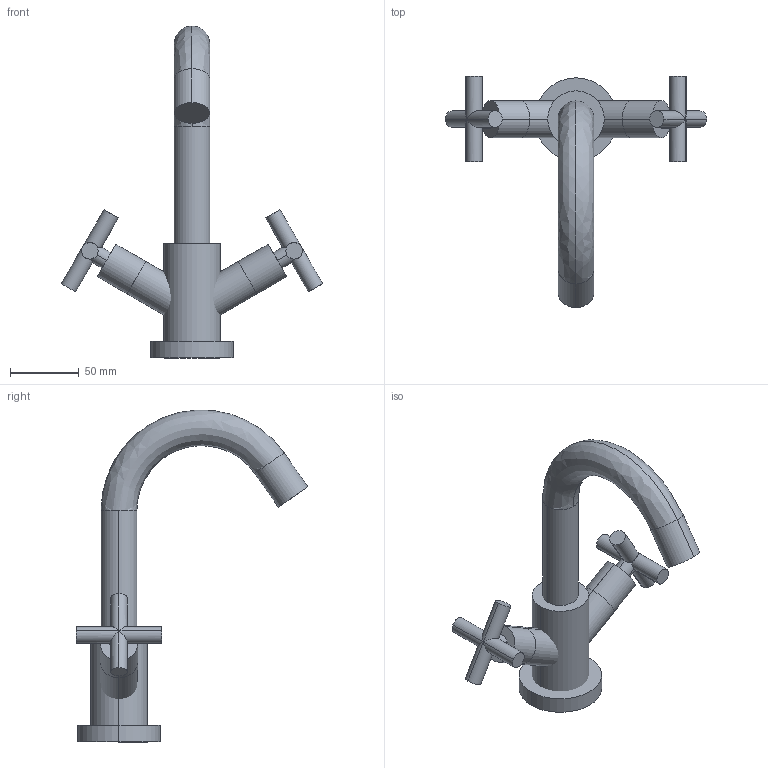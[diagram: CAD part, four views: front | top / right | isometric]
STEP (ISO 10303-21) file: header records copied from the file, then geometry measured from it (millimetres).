
FILE_DESCRIPTION(('FreeCAD Model'),'2;1');
FILE_NAME('Open CASCADE Shape Model','2024-08-08T17:45:22',('Author'),( ''),'Open CASCADE STEP processor 7.6','FreeCAD','Unknown');
FILE_SCHEMA(('AUTOMOTIVE_DESIGN { 1 0 10303 214 1 1 1 1 }'));
Length unit declared in the file: millimetre
Products named in the file (15): TopLevelAssembly; Wyciąganie001; Wyciąganie002; Wyciąganie003; Wyciąganie004; Połączona geometria bryłowa; Połączona geometria bryłowa003; Połączona geometria bryłowa001; Połączona geometria bryłowa002; Połączona geometria bryłowa004; Wyciąganie007; Wyciąganie008; Połączona geometria bryłowa005; Wyciąganie009; Wyciąganie010
Assembly tree (14 placements, depth 3):
  TopLevelAssembly
    Wyciąganie001
    Wyciąganie002
    Wyciąganie003
    Wyciąganie004
    Połączona geometria bryłowa
    Połączona geometria bryłowa003
      Połączona geometria bryłowa001
      Połączona geometria bryłowa002
    Połączona geometria bryłowa004
    Wyciąganie007
    Wyciąganie008
    Połączona geometria bryłowa005
    Wyciąganie009
    Wyciąganie010
Bounding box: 189.64 x 168.01 x 240.9 mm (x, y, z)
Volume: 455987.7 mm3; surface area: 83034.9 mm2
Topology: 13 solids, 13 shells, 78 faces, 140 edges, 88 vertices
Faces by surface type: cylinder 44, plane 32, bspline 2
Entity records: 2438 total; most frequent: CARTESIAN_POINT 513, DIRECTION 386, ORIENTED_EDGE 280, AXIS2_PLACEMENT_3D 171, EDGE_CURVE 140, VERTEX_POINT 88, ADVANCED_FACE 78, FACE_BOUND 78
